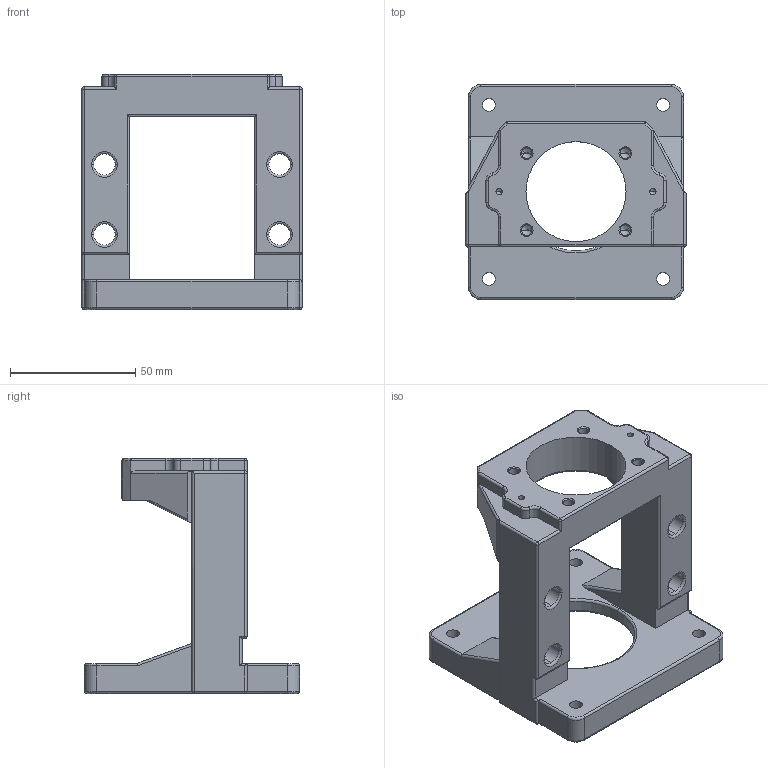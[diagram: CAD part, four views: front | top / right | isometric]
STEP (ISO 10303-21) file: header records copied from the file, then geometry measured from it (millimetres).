
FILE_DESCRIPTION (( 'STEP AP203' ), '1' );
FILE_NAME ('傳動座MBL15-F.STEP', '2020-07-01T08:00:35', ( '' ), ( '' ), 'SwSTEP 2.0', 'SolidWorks 2018', '' );
FILE_SCHEMA (( 'CONFIG_CONTROL_DESIGN' ));
Length unit declared in the file: millimetre
Products named in the file (1): 傳動座MBL15-F
Bounding box: 88 x 86 x 94 mm (x, y, z)
Volume: 147600.4 mm3; surface area: 41198.8 mm2
Topology: 1 solids, 1 shells, 247 faces, 604 edges, 344 vertices
Faces by surface type: cylinder 120, plane 45, torus 42, cone 28, sphere 12
Entity records: 7157 total; most frequent: CARTESIAN_POINT 1334, DIRECTION 1294, ORIENTED_EDGE 1160, EDGE_CURVE 580, AXIS2_PLACEMENT_3D 516, VERTEX_POINT 344, EDGE_LOOP 278, CIRCLE 268
